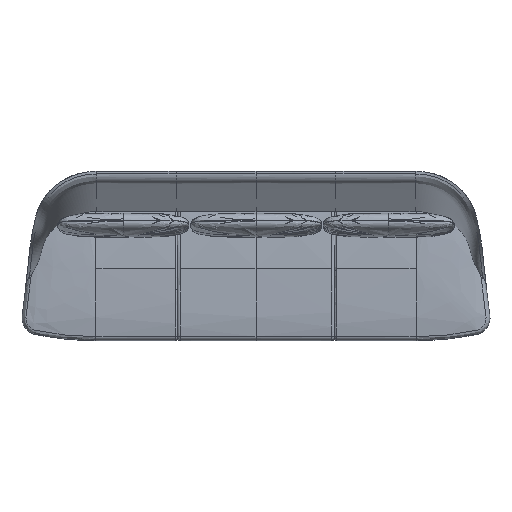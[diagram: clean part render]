
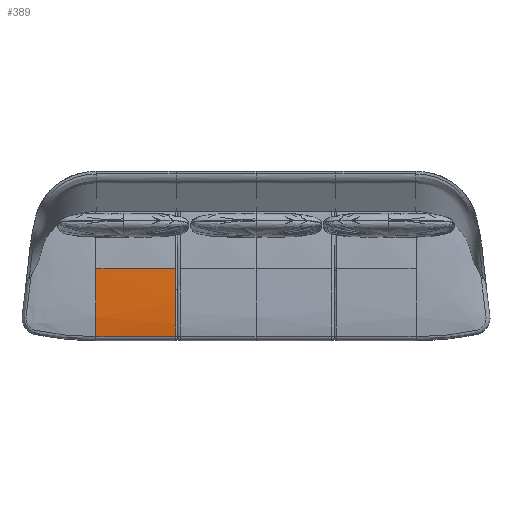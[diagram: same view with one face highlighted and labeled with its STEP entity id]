
A CAD part, top view. The second image highlights one B-rep face of the part: STEP entity #389.
In plain terms, the highlighted free-form (B-spline) face has degree [1, 3] with [2, 4] control points.
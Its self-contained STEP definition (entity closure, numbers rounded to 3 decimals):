
#389=ADVANCED_FACE('',(#743),#5094,.T.);
#743=FACE_OUTER_BOUND('',#1097,.T.);
#1097=EDGE_LOOP('',(#2363,#2364,#2365,#2366));
#2363=ORIENTED_EDGE('',*,*,#3320,.F.);
#2364=ORIENTED_EDGE('',*,*,#3334,.F.);
#2365=ORIENTED_EDGE('',*,*,#3331,.T.);
#2366=ORIENTED_EDGE('',*,*,#3335,.F.);
#3320=EDGE_CURVE('',#4713,#4712,#3847,.T.);
#3331=EDGE_CURVE('',#4722,#4723,#3849,.T.);
#3334=EDGE_CURVE('',#4722,#4713,#3851,.T.);
#3335=EDGE_CURVE('',#4712,#4723,#4216,.T.);
#3847=(
BOUNDED_CURVE()
B_SPLINE_CURVE(1,(#57852,#57853),.UNSPECIFIED.,.F.,.F.)
B_SPLINE_CURVE_WITH_KNOTS((2,2),(0.,384.822),.UNSPECIFIED.)
CURVE()
GEOMETRIC_REPRESENTATION_ITEM()
RATIONAL_B_SPLINE_CURVE((1.,1.))
REPRESENTATION_ITEM('')
);
#3849=(
BOUNDED_CURVE()
B_SPLINE_CURVE(1,(#57959,#57960),.UNSPECIFIED.,.F.,.F.)
B_SPLINE_CURVE_WITH_KNOTS((2,2),(0.,384.822),.UNSPECIFIED.)
CURVE()
GEOMETRIC_REPRESENTATION_ITEM()
RATIONAL_B_SPLINE_CURVE((1.,1.))
REPRESENTATION_ITEM('')
);
#3851=(
BOUNDED_CURVE()
B_SPLINE_CURVE(3,(#57999,#58000,#58001,#58002),.UNSPECIFIED.,.F.,.F.)
B_SPLINE_CURVE_WITH_KNOTS((4,4),(0.,334.52),.UNSPECIFIED.)
CURVE()
GEOMETRIC_REPRESENTATION_ITEM()
RATIONAL_B_SPLINE_CURVE((1.,1.,1.,1.))
REPRESENTATION_ITEM('')
);
#4216=B_SPLINE_CURVE_WITH_KNOTS('',3,(#58003,#58004,#58005,#58006,#58007,
#58008,#58009,#58010,#58011,#58012,#58013,#58014,#58015,#58016,#58017,#58018,
#58019,#58020,#58021,#58022,#58023,#58024,#58025,#58026,#58027,#58028,#58029,
#58030,#58031,#58032,#58033,#58034,#58035,#58036,#58037,#58038,#58039,#58040,
#58041,#58042,#58043,#58044,#58045,#58046,#58047,#58048),.UNSPECIFIED.,
 .F.,.F.,(4,3,3,3,3,3,3,3,3,3,3,3,3,3,3,4),(0.,4.556,9.113,
18.224,27.336,36.448,54.672,72.895,
91.118,109.342,145.789,182.235,218.683,
255.129,291.575,318.245),.UNSPECIFIED.);
#4712=VERTEX_POINT('',#57824);
#4713=VERTEX_POINT('',#57825);
#4722=VERTEX_POINT('',#57834);
#4723=VERTEX_POINT('',#57835);
#5094=(
BOUNDED_SURFACE()
B_SPLINE_SURFACE(1,3,((#34807,#34808,#34809,#34810),(#34811,#34812,#34813,
#34814)),.UNSPECIFIED.,.F.,.F.,.F.)
B_SPLINE_SURFACE_WITH_KNOTS((2,2),(4,4),(0.,785.644),(0.,334.52),
 .UNSPECIFIED.)
GEOMETRIC_REPRESENTATION_ITEM()
RATIONAL_B_SPLINE_SURFACE(((0.99,0.99,0.99,
0.99),(0.99,0.99,0.99,
0.99)))
REPRESENTATION_ITEM('')
SURFACE()
);
#34807=CARTESIAN_POINT('',(-745.503,25.678,400.));
#34808=CARTESIAN_POINT('',(-745.503,-185.463,400.));
#34809=CARTESIAN_POINT('',(-745.503,-261.95,390.49));
#34810=CARTESIAN_POINT('',(-745.503,-291.602,382.67));
#34811=CARTESIAN_POINT('',(11.56,25.678,400.));
#34812=CARTESIAN_POINT('',(11.56,-185.463,400.));
#34813=CARTESIAN_POINT('',(11.56,-261.95,390.49));
#34814=CARTESIAN_POINT('',(11.56,-291.602,382.67));
#57824=CARTESIAN_POINT('',(-374.681,-291.603,382.67));
#57825=CARTESIAN_POINT('',(-745.503,-291.602,382.67));
#57834=CARTESIAN_POINT('',(-745.503,25.678,400.));
#57835=CARTESIAN_POINT('',(-374.681,25.677,400.));
#57852=CARTESIAN_POINT('',(-745.503,-291.602,382.67));
#57853=CARTESIAN_POINT('',(-374.681,-291.603,382.67));
#57959=CARTESIAN_POINT('',(-745.503,25.678,400.));
#57960=CARTESIAN_POINT('',(-374.681,25.677,400.));
#57999=CARTESIAN_POINT('',(-745.503,25.678,400.));
#58000=CARTESIAN_POINT('',(-745.503,-185.463,400.));
#58001=CARTESIAN_POINT('',(-745.503,-261.95,390.49));
#58002=CARTESIAN_POINT('',(-745.503,-291.602,382.67));
#58003=CARTESIAN_POINT('',(-374.681,-291.603,382.67));
#58004=CARTESIAN_POINT('',(-374.681,-290.135,383.057));
#58005=CARTESIAN_POINT('',(-374.681,-288.659,383.42));
#58006=CARTESIAN_POINT('',(-374.681,-287.181,383.764));
#58007=CARTESIAN_POINT('',(-374.681,-285.702,384.108));
#58008=CARTESIAN_POINT('',(-374.681,-284.216,384.434));
#58009=CARTESIAN_POINT('',(-374.681,-282.73,384.744));
#58010=CARTESIAN_POINT('',(-374.681,-279.758,385.364));
#58011=CARTESIAN_POINT('',(-374.681,-276.772,385.925));
#58012=CARTESIAN_POINT('',(-374.681,-273.78,386.444));
#58013=CARTESIAN_POINT('',(-374.681,-270.787,386.963));
#58014=CARTESIAN_POINT('',(-374.681,-267.788,387.439));
#58015=CARTESIAN_POINT('',(-374.681,-264.783,387.885));
#58016=CARTESIAN_POINT('',(-374.681,-261.779,388.331));
#58017=CARTESIAN_POINT('',(-374.681,-258.77,388.745));
#58018=CARTESIAN_POINT('',(-374.681,-255.758,389.134));
#58019=CARTESIAN_POINT('',(-374.681,-249.734,389.913));
#58020=CARTESIAN_POINT('',(-374.681,-243.696,390.595));
#58021=CARTESIAN_POINT('',(-374.681,-237.653,391.211));
#58022=CARTESIAN_POINT('',(-374.681,-231.61,391.827));
#58023=CARTESIAN_POINT('',(-374.681,-225.561,392.377));
#58024=CARTESIAN_POINT('',(-374.681,-219.507,392.878));
#58025=CARTESIAN_POINT('',(-374.681,-213.454,393.379));
#58026=CARTESIAN_POINT('',(-374.681,-207.396,393.831));
#58027=CARTESIAN_POINT('',(-374.681,-201.336,394.246));
#58028=CARTESIAN_POINT('',(-374.681,-195.276,394.66));
#58029=CARTESIAN_POINT('',(-374.681,-189.213,395.037));
#58030=CARTESIAN_POINT('',(-374.681,-183.148,395.382));
#58031=CARTESIAN_POINT('',(-374.681,-171.019,396.074));
#58032=CARTESIAN_POINT('',(-374.681,-158.882,396.644));
#58033=CARTESIAN_POINT('',(-374.681,-146.743,397.13));
#58034=CARTESIAN_POINT('',(-374.681,-134.605,397.615));
#58035=CARTESIAN_POINT('',(-374.681,-122.461,398.015));
#58036=CARTESIAN_POINT('',(-374.681,-110.318,398.35));
#58037=CARTESIAN_POINT('',(-374.681,-98.174,398.686));
#58038=CARTESIAN_POINT('',(-374.681,-86.027,398.956));
#58039=CARTESIAN_POINT('',(-374.681,-73.88,399.175));
#58040=CARTESIAN_POINT('',(-374.681,-61.734,399.395));
#58041=CARTESIAN_POINT('',(-374.681,-49.586,399.562));
#58042=CARTESIAN_POINT('',(-374.681,-37.438,399.689));
#58043=CARTESIAN_POINT('',(-374.681,-25.29,399.815));
#58044=CARTESIAN_POINT('',(-374.681,-13.141,399.899));
#58045=CARTESIAN_POINT('',(-374.681,-0.992,399.947));
#58046=CARTESIAN_POINT('',(-374.681,7.898,399.983));
#58047=CARTESIAN_POINT('',(-374.681,16.788,400.));
#58048=CARTESIAN_POINT('',(-374.681,25.677,400.));
